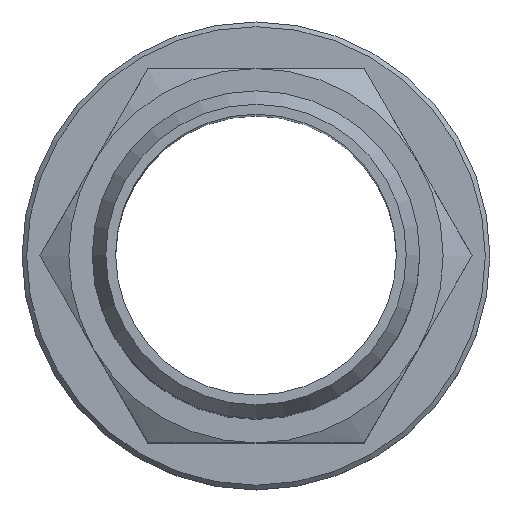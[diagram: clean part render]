
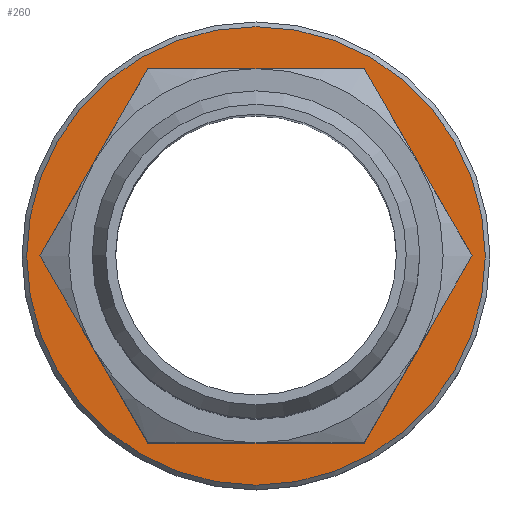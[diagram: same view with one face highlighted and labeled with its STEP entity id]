
A CAD part, top view. The second image highlights one B-rep face of the part: STEP entity #260.
In plain terms, the highlighted planar face has unit normal (0, 0, 1).
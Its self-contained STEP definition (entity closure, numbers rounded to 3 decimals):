
#260=ADVANCED_FACE('', (#270,#280), #290, .T.);
#2080=AXIS2_PLACEMENT_3D('Ax2Pl3d', #2090, #2100, #2110);
#2120=AXIS2_PLACEMENT_3D('Ax2Pl3d', #2130, #2140, #2150);
#2090=CARTESIAN_POINT('HicPkt', (32.25,14.317,
21.873));
#2130=CARTESIAN_POINT('HicPkt', (22.45,14.317,
21.873));
#5930=CARTESIAN_POINT('', (22.45,24.117,21.873));
#5940=CARTESIAN_POINT('', (17.831,22.317,21.873));
#5950=CARTESIAN_POINT('', (27.069,22.317,21.873));
#5960=CARTESIAN_POINT('', (17.831,22.317,21.873));
#5970=CARTESIAN_POINT('', (27.069,22.317,21.873));
#5980=CARTESIAN_POINT('', (31.688,14.317,21.873));
#5990=CARTESIAN_POINT('', (31.688,14.317,21.873));
#6000=CARTESIAN_POINT('', (27.069,6.317,21.873));
#6010=CARTESIAN_POINT('', (27.069,6.317,21.873));
#6020=CARTESIAN_POINT('', (17.831,6.317,21.873));
#6030=CARTESIAN_POINT('', (17.831,6.317,21.873));
#6040=CARTESIAN_POINT('', (13.213,14.317,21.873));
#6050=CARTESIAN_POINT('', (13.213,14.317,21.873));
#6530=CIRCLE('Circle', #2120, 9.8);
#2100=DIRECTION('Axis', (0.,0.,1.));
#2110=DIRECTION('RefDirection', (1.,0.,-0.));
#2140=DIRECTION('Axis', (0.,0.,1.));
#2150=DIRECTION('RefDirection', (1.,0.,-0.));
#8750=DIRECTION('', (-1.,0.,0.));
#8760=DIRECTION('', (-0.5,0.866,0.));
#8770=DIRECTION('', (0.5,0.866,0.));
#8780=DIRECTION('', (1.,0.,0.));
#8790=DIRECTION('', (0.5,-0.866,0.));
#8800=DIRECTION('', (-0.5,-0.866,0.));
#8950=EDGE_CURVE('', #8960, #8960, #6530, .T.);
#8970=EDGE_CURVE('', #8980, #8990, #9000, .T.);
#9010=EDGE_CURVE('', #9020, #8980, #9030, .T.);
#9040=EDGE_CURVE('', #9050, #9020, #9060, .T.);
#9070=EDGE_CURVE('', #9080, #9050, #9090, .T.);
#9100=EDGE_CURVE('', #9110, #9080, #9120, .T.);
#9130=EDGE_CURVE('', #8990, #9110, #9140, .T.);
#10230=EDGE_LOOP('Edge_loop', (#10240));
#10250=EDGE_LOOP('Edge_loop', (#10260,#10270,#10280,#10290,#10300,
#10310));
#280=FACE_BOUND('', #10250, .T.);
#270=FACE_OUTER_BOUND('Face_outer_bound', #10230, .T.);
#9000=LINE('Line', #5940, #12510);
#9030=LINE('Line', #5970, #12520);
#9060=LINE('Line', #5990, #12530);
#9090=LINE('Line', #6010, #12540);
#9120=LINE('Line', #6030, #12550);
#9140=LINE('Line', #6050, #12560);
#10240=ORIENTED_EDGE('', *, *, #8950, .T.);
#10260=ORIENTED_EDGE('', *, *, #8970, .F.);
#10270=ORIENTED_EDGE('', *, *, #9010, .F.);
#10280=ORIENTED_EDGE('', *, *, #9040, .F.);
#10290=ORIENTED_EDGE('', *, *, #9070, .F.);
#10300=ORIENTED_EDGE('', *, *, #9100, .F.);
#10310=ORIENTED_EDGE('', *, *, #9130, .F.);
#290=PLANE('Plane', #2080);
#12510=VECTOR('', #8750, 9.238);
#12520=VECTOR('', #8760, 9.238);
#12530=VECTOR('', #8770, 9.238);
#12540=VECTOR('', #8780, 9.238);
#12550=VECTOR('', #8790, 9.238);
#12560=VECTOR('', #8800, 9.238);
#8960=VERTEX_POINT('', #5930);
#8980=VERTEX_POINT('', #5950);
#8990=VERTEX_POINT('', #5960);
#9020=VERTEX_POINT('', #5980);
#9050=VERTEX_POINT('', #6000);
#9080=VERTEX_POINT('', #6020);
#9110=VERTEX_POINT('', #6040);
